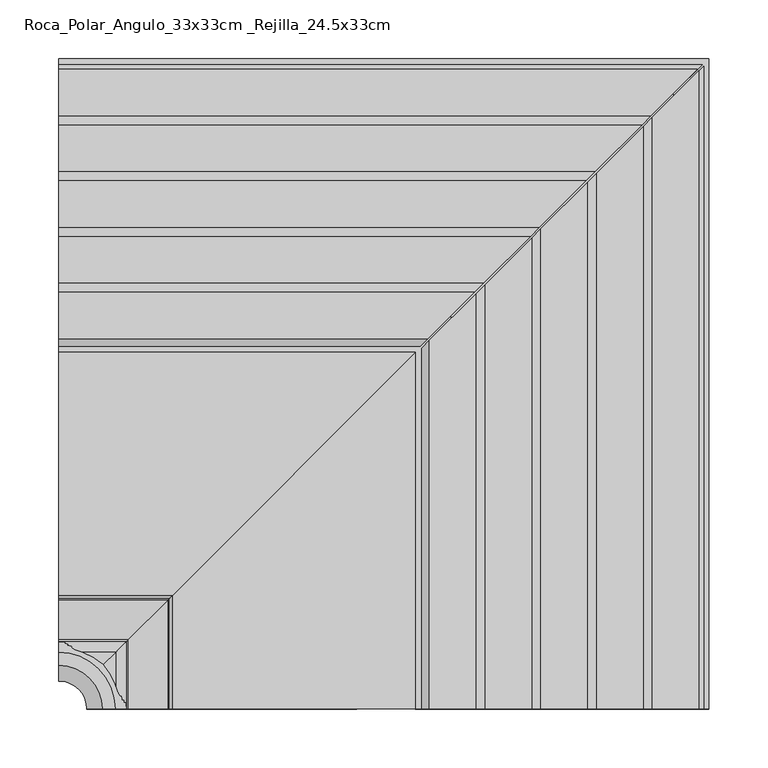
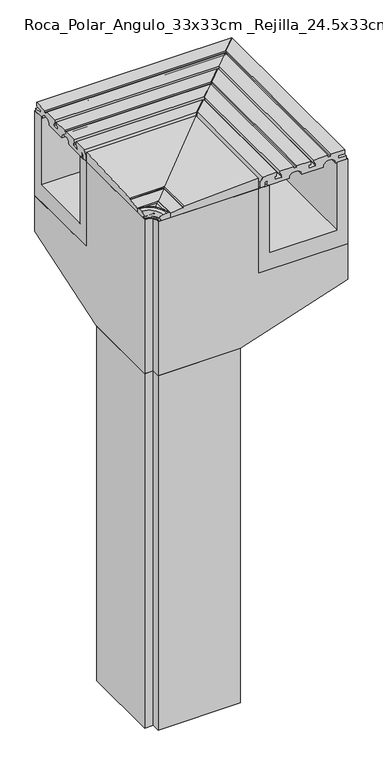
"""IFC4 building model written with IfcOpenShell, lengths in millimetres: proxy geometry, EXAGRES - Coronación Ángulo desbordante : Roca_Polar_Angulo_33x33cm _Rejilla_24.5x33cm."""

from ifc_helpers import new_model, si_unit, point, frame, origin, place, context, project, spatial, polyline, circle_curve, ellipse_curve, trimmed, outline, extrude, faceted_brep, source, transform, mapped, element, save
from ifc_brep_helpers import plane_surface, cylinder_surface, revolved_surface, advanced_brep


def roca_polar_angulo_33x33cm_rejilla_24_5x33cm_6b5bcf94(model_context):
    return source(origin(), model_context, "Body", "SolidModel", [
        faceted_brep([(-23.9, 280.0011128, 0.0), (-23.9, 280.0011128, -250.0), (-23.9, 530.0011128, -250.0), (-23.9, 530.0011128, -355.2891109), (-23.9, 230.0011128, -453.7407963), (-23.9, 0.0011128, -453.7407963), (-23.9, 0.0011128, 0.0), (230.0011128, -23.9, -453.7407963), (530.0011128, -23.9, -355.2891109), (530.0011128, -23.9, -250.0), (280.0011128, -23.9, -250.0), (280.0011128, -23.9, 0.0), (0.0, -23.9, 0.0), (0.0, -23.9, -453.7407963), (0.0, 0.0011128, 0.0), (280.0011128, 280.0011128, 0.0), (280.0011128, 280.0011128, -250.0), (530.0011128, 530.0011128, -250.0), (530.0011128, 530.0011128, -355.2891109), (230.0011128, 230.0011128, -453.7407963), (0.0, 0.0011128, -453.7407963)], [[[0, 1, 2, 3, 4, 5, 6]], [[7, 8, 9, 10, 11, 12, 13]], [[0, 6, 14, 12, 11, 15]], [[1, 0, 15, 16]], [[2, 1, 16, 10, 9, 17]], [[3, 2, 17, 18]], [[4, 3, 18, 19]], [[5, 4, 19, 7, 13, 20]], [[11, 10, 16, 15]], [[9, 8, 18, 17]], [[8, 7, 19, 18]], [[14, 6, 5, 20]], [[12, 14, 20, 13]]]),
        faceted_brep([(-23.9, 310.0, -200.0), (-23.9, 500.0, -200.0), (-23.9, 500.0, 0.0), (-23.9, 530.0, 0.0), (-23.9, 530.0, -250.0), (-23.9, 280.0, -250.0), (-23.9, 280.0, 0.0), (-23.9, 310.0, 0.0), (310.0011128, -23.9, -200.0), (310.0011128, -23.9, 0.0), (280.0011128, -23.9, 0.0), (280.0011128, -23.9, -250.0), (530.0011128, -23.9, -250.0), (530.0011128, -23.9, 0.0), (500.0011128, -23.9, 0.0), (500.0011128, -23.9, -200.0), (310.0011128, 310.0, -200.0), (500.0011128, 500.0, -200.0), (500.0011128, 500.0, 0.0), (530.0011128, 530.0, 0.0), (530.0011128, 530.0, -250.0), (280.0011128, 280.0, -250.0), (280.0011128, 280.0, 0.0), (310.0011128, 310.0, 0.0)], [[[0, 1, 2, 3, 4, 5, 6, 7]], [[8, 9, 10, 11, 12, 13, 14, 15]], [[1, 0, 16, 8, 15, 17]], [[2, 1, 17, 18]], [[3, 2, 18, 14, 13, 19]], [[4, 3, 19, 20]], [[5, 4, 20, 12, 11, 21]], [[6, 5, 21, 22]], [[7, 6, 22, 10, 9, 23]], [[0, 7, 23, 16]], [[18, 17, 15, 14]], [[20, 19, 13, 12]], [[22, 21, 11, 10]], [[16, 23, 9, 8]]]),
        advanced_brep(
        [(-23.9, 24.504847, 17.2273141), (-23.9, 33.5069131, 13.4447519), (-23.9, 33.5069131, 0.0), (-23.9, 10.1878853, 0.0), (-23.9, 9.2607023, 0.927183), (-23.9, 8.3335193, 1.854366), (-23.9, 1.3896617, 1.854366), (-23.9, 0.0, 3.300764), (-23.9, 13.1687422, 16.633214), (24.504847, -23.9, 17.2273141), (13.1687422, -23.9, 16.633214), (0.0, -23.9, 3.300764), (1.3896617, -23.9, 1.854366), (8.3335193, -23.9, 1.854366), (9.2607023, -23.9, 0.927183), (10.1878853, -23.9, 0.0), (33.5069131, -23.9, 0.0), (33.5069131, -23.9, 13.4447519)],
        [
            (0, 1, circle_curve(frame((-23.9, 25.0921082, 6.0217029), z_axis=(-1.0, 0.0, 0.0), x_axis=(0.0, -1.0, 0.0)), 11.2209892)),
            (1, 2),
            (2, 3),
            (3, 4, circle_curve(frame((-23.9, 10.1878853, 0.927183), z_axis=(-1.0, 0.0, 0.0), x_axis=(0.0, -1.0, 0.0)), 0.927183)),
            (4, 5, circle_curve(frame((-23.9, 8.3335193, 0.927183), z_axis=(1.0, 0.0, 0.0), x_axis=(0.0, 0.0, 1.0)), 0.927183)),
            (5, 6),
            (6, 7, circle_curve(frame((-23.9, 1.3896617, 3.2451405), z_axis=(-1.0000000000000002, 0.0, 0.0), x_axis=(0.0, -0.9991998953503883, 0.03999461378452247)), 1.3907745)),
            (7, 8, circle_curve(frame((-23.9, 13.8966173, 2.7445291), z_axis=(-1.0, 0.0, 0.0), x_axis=(0.0, -0.052335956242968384, 0.9986295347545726)), 13.907745)),
            (8, 0),
            (9, 10),
            (10, 11, circle_curve(frame((13.8966173, -23.9, 2.7445291), z_axis=(0.0, -1.0, 0.0), x_axis=(-0.052335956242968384, 0.0, 0.9986295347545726)), 13.907745)),
            (11, 12, circle_curve(frame((1.3896617, -23.9, 3.2451405), z_axis=(0.0, -1.0000000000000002, 0.0), x_axis=(-0.9991998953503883, 0.0, 0.03999461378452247)), 1.3907745)),
            (12, 13),
            (13, 14, circle_curve(frame((8.3335193, -23.9, 0.927183), z_axis=(0.0, 1.0, 0.0), x_axis=(0.0, 0.0, 1.0)), 0.927183)),
            (14, 15, circle_curve(frame((10.1878853, -23.9, 0.927183), z_axis=(0.0, -1.0, 0.0), x_axis=(-1.0, 0.0, 0.0)), 0.927183)),
            (15, 16),
            (16, 17),
            (17, 9, circle_curve(frame((25.0921082, -23.9, 6.0217029), z_axis=(0.0, -1.0, 0.0), x_axis=(-1.0, 0.0, 0.0)), 11.2209892)),
            (17, 1, circle_curve(frame((-23.9, -23.9, 13.4447519), z_axis=(0.0, 0.0, 1.0), x_axis=(0.0, 1.0, 0.0)), 57.4069131)),
            (0, 9, circle_curve(frame((-23.9, -23.9, 17.2273141), z_axis=(0.0, 0.0, -1.0), x_axis=(0.0, 1.0, 0.0)), 48.404847)),
            (16, 2, circle_curve(frame((-23.9, -23.9, 0.0), z_axis=(0.0, 0.0, 1.0), x_axis=(0.0, 1.0, 0.0)), 57.4069131)),
            (15, 3, circle_curve(frame((-23.9, -23.9, 0.0), z_axis=(0.0, 0.0, 1.0), x_axis=(0.0, 1.0, 0.0)), 34.0878853)),
            (14, 4, circle_curve(frame((-23.9, -23.9, 0.927183), z_axis=(0.0, 0.0, 1.0), x_axis=(0.0, 1.0, 0.0)), 33.1607023)),
            (13, 5, circle_curve(frame((-23.9, -23.9, 1.854366), z_axis=(0.0, 0.0, 1.0), x_axis=(0.0, 1.0, 0.0)), 32.2335193)),
            (12, 6, circle_curve(frame((-23.9, -23.9, 1.854366), z_axis=(0.0, 0.0, 1.0), x_axis=(0.0, 1.0, 0.0)), 25.2896617)),
            (11, 7, circle_curve(frame((-23.9, -23.9, 3.300764), z_axis=(0.0, 0.0, 1.0), x_axis=(0.0, 1.0, 0.0)), 23.9)),
            (10, 8, circle_curve(frame((-23.9, -23.9, 16.633214), z_axis=(0.0, 0.0, 1.0), x_axis=(0.0, 1.0, 0.0)), 37.0687422)),
        ],
        [
            plane_surface(frame((-23.9, 0.0, 0.0), z_axis=(-1.0, 0.0, 0.0), x_axis=(0.0, 0.0, 1.0))),
            plane_surface(frame((0.0, -23.9, 0.0), z_axis=(0.0, -1.0, 0.0), x_axis=(0.0, 0.0, 1.0))),
            revolved_surface(trimmed(ellipse_curve(frame((-23.9, 25.0921082, 6.0217029), z_axis=(-1.0, 0.0, 0.0), x_axis=(0.0, -1.0, 0.0)), 11.2209892, 11.2209892), [point((-23.9, 24.504847, 17.2273141))], [point((-23.9, 33.5069131, 13.4447519))], True, "CARTESIAN"), (-23.9, -23.9, 0.0), (0.0, 0.0, -1.0)),
            cylinder_surface(frame((-23.9, -23.9, 0.0), z_axis=(0.0, 0.0, -1.0), x_axis=(0.0, 1.0, 0.0)), 57.4069131),
            plane_surface(frame((-23.9, -23.9, 0.0), z_axis=(0.0, 0.0, -1.0), x_axis=(0.0, 1.0, 0.0))),
            revolved_surface(trimmed(ellipse_curve(frame((-23.9, 10.1878853, 0.927183), z_axis=(-1.0, 0.0, 0.0), x_axis=(0.0, -1.0, 0.0)), 0.927183, 0.927183), [point((-23.9, 10.1878853, 0.0))], [point((-23.9, 9.2607023, 0.927183))], True, "CARTESIAN"), (-23.9, -23.9, 0.0), (0.0, 0.0, -1.0)),
            revolved_surface(trimmed(ellipse_curve(frame((-23.9, 8.3335193, 0.927183), z_axis=(1.0, 0.0, 0.0), x_axis=(0.0, 0.0, 1.0)), 0.927183, 0.927183), [point((-23.9, 9.2607023, 0.927183))], [point((-23.9, 8.3335193, 1.854366))], True, "CARTESIAN"), (-23.9, -23.9, 0.0), (0.0, 0.0, -1.0)),
            plane_surface(frame((-23.9, -23.9, 1.854366), z_axis=(0.0, 0.0, -1.0), x_axis=(0.0, 1.0, 0.0))),
            revolved_surface(trimmed(ellipse_curve(frame((-23.9, 1.3896617, 3.2451405), z_axis=(-1.0000000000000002, 0.0, 0.0), x_axis=(0.0, -0.9991998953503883, 0.03999461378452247)), 1.3907745, 1.3907745), [point((-23.9, 1.3896617, 1.854366))], [point((-23.9, 0.0, 3.300764))], True, "CARTESIAN"), (-23.9, -23.9, 0.0), (0.0, 0.0, -1.0)),
            revolved_surface(trimmed(ellipse_curve(frame((-23.9, 13.8966173, 2.7445291), z_axis=(-1.0, 0.0, 0.0), x_axis=(0.0, -0.052335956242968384, 0.9986295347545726)), 13.907745, 13.907745), [point((-23.9, 0.0, 3.300764))], [point((-23.9, 13.1687422, 16.633214))], True, "CARTESIAN"), (-23.9, -23.9, 0.0), (0.0, 0.0, -1.0)),
            revolved_surface(polyline([(-23.9, 13.1687422, 16.633214), (-23.9, 24.504847, 17.2273141)]), (-23.9, -23.9, 0.0), (0.0, 0.0, -1.0)),
        ],
        [
            (0, [[1, 2, 3, 4, 5, 6, 7, 8, 9]]),
            (1, [[10, 11, 12, 13, 14, 15, 16, 17, 18]]),
            (2, [[19, -1, 20, -18]]),
            (3, [[21, -2, -19, -17]]),
            (4, [[22, -3, -21, -16]]),
            (5, [[23, -4, -22, -15]]),
            (6, [[24, -5, -23, -14]]),
            (7, [[25, -6, -24, -13]]),
            (8, [[26, -7, -25, -12]]),
            (9, [[27, -8, -26, -11]]),
            (10, [[-20, -9, -27, -10]]),
        ],
    ),
        extrude(outline(polyline([(230.0011128, 230.0011128), (230.0011128, -23.9), (0.0, -23.9), (0.0, 0.0011128), (-23.9, 0.0011128), (-23.9, 230.0011128), (230.0011128, 230.0011128)])), frame((0.0, 0.0, -1500.0), z_axis=(0.0, 0.0, 1.0), x_axis=(1.0, 0.0, 0.0)), (0.0, 0.0, 1.0), 1046.2592037),
        advanced_brep(
        [(-23.9, 70.2959881, 18.0752192), (-23.9, 72.7136292, 19.7537587), (-23.9, 279.9992511, 30.0), (-23.9, 279.9992511, 0.0), (-23.9, 10.1889981, 0.0), (-23.9, 9.2618151, 0.927183), (-23.9, 8.3346321, 1.854366), (-23.9, 1.3907745, 1.854366), (-23.9, 0.0011128, 3.300764), (-23.9, 13.169855, 16.633214), (-23.9, 24.5059597, 17.2273141), (-23.9, 33.5080259, 13.4447519), (-23.9, 35.1246359, 12.8309314), (-23.9, 68.8507546, 16.9719781), (70.2959881, -23.9, 18.0752192), (68.8507546, -23.9, 16.9719781), (35.1246359, -23.9, 12.8309314), (33.5080259, -23.9, 13.4447519), (24.5059597, -23.9, 17.2273141), (13.169855, -23.9, 16.633214), (0.0011128, -23.9, 3.300764), (1.3907745, -23.9, 1.854366), (8.3346321, -23.9, 1.854366), (9.2618151, -23.9, 0.927183), (10.1889981, -23.9, 0.0), (279.9992511, -23.9, 0.0), (279.9992511, -23.9, 30.0), (72.7136292, -23.9, 19.7537587), (70.2959881, 70.2959881, 18.0752192), (72.7136292, 72.7136292, 19.7537587), (279.9992511, 279.9992511, 30.0), (279.9992511, 279.9992511, 0.0), (10.1889981, 10.1889981, 0.0), (9.2618151, 9.2618151, 0.927183), (8.3346321, 8.3346321, 1.854366), (1.3907745, 1.3907745, 1.854366), (0.0011128, 0.0011128, 3.300764), (13.169855, 13.169855, 16.633214), (24.5059597, 24.5059597, 17.2273141), (33.5080259, 33.5080259, 13.4447519), (35.1246359, 35.1246359, 12.8309314), (68.8507546, 68.8507546, 16.9719781)],
        [
            (0, 1, circle_curve(frame((-23.9, 72.850955, 16.9756017), z_axis=(-1.0, 0.0, 0.0), x_axis=(0.0, -0.052335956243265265, 0.9986295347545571)), 2.781549)),
            (1, 2),
            (2, 3),
            (3, 4),
            (4, 5, circle_curve(frame((-23.9, 10.1889981, 0.927183), z_axis=(-1.0, 0.0, 0.0), x_axis=(0.0, -1.0, 0.0)), 0.927183)),
            (5, 6, circle_curve(frame((-23.9, 8.3346321, 0.927183), z_axis=(1.0, 0.0, 0.0), x_axis=(0.0, 0.0, 1.0)), 0.927183)),
            (6, 7),
            (7, 8, circle_curve(frame((-23.9, 1.3907745, 3.2451405), z_axis=(-1.0, 0.0, 0.0), x_axis=(0.0, -0.9991998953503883, 0.039994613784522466)), 1.3907745)),
            (8, 9, circle_curve(frame((-23.9, 13.8977301, 2.7445291), z_axis=(-1.0, 0.0, 0.0), x_axis=(0.0, -0.052335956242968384, 0.9986295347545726)), 13.907745)),
            (9, 10),
            (10, 11, circle_curve(frame((-23.9, 25.0932209, 6.0217029), z_axis=(-1.0, 0.0, 0.0), x_axis=(0.0, -1.0, 0.0)), 11.2209892)),
            (11, 12, circle_curve(frame((-23.9, 34.8986455, 14.6714753), z_axis=(1.0, 0.0, 0.0), x_axis=(0.0, 0.12186934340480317, -0.9925461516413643)), 1.854366)),
            (12, 13),
            (13, 0, circle_curve(frame((-23.9, 68.5926768, 18.8082976), z_axis=(1.0, 0.0, 0.0), x_axis=(0.0, 0.9185410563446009, -0.39532559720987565)), 1.854366)),
            (14, 15, circle_curve(frame((68.5926768, -23.9, 18.8082976), z_axis=(0.0, 1.0, 0.0), x_axis=(0.9185410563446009, 0.0, -0.3953255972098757)), 1.854366)),
            (15, 16),
            (16, 17, circle_curve(frame((34.8986455, -23.9, 14.6714753), z_axis=(0.0, 1.0, 0.0), x_axis=(0.12186934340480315, 0.0, -0.9925461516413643)), 1.854366)),
            (17, 18, circle_curve(frame((25.0932209, -23.9, 6.0217029), z_axis=(0.0, -1.0, 0.0), x_axis=(-1.0, 0.0, 0.0)), 11.2209892)),
            (18, 19),
            (19, 20, circle_curve(frame((13.8977301, -23.9, 2.7445291), z_axis=(0.0, -1.0, 0.0), x_axis=(-0.05233595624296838, 0.0, 0.9986295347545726)), 13.907745)),
            (20, 21, circle_curve(frame((1.3907745, -23.9, 3.2451405), z_axis=(0.0, -1.0, 0.0), x_axis=(-0.9991998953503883, 0.0, 0.03999461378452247)), 1.3907745)),
            (21, 22),
            (22, 23, circle_curve(frame((8.3346321, -23.9, 0.927183), z_axis=(0.0, 1.0, 0.0), x_axis=(0.0, 0.0, 1.0)), 0.927183)),
            (23, 24, circle_curve(frame((10.1889981, -23.9, 0.927183), z_axis=(0.0, -1.0, 0.0), x_axis=(-1.0, 0.0, 0.0)), 0.927183)),
            (24, 25),
            (25, 26),
            (26, 27),
            (27, 14, circle_curve(frame((72.850955, -23.9, 16.9756017), z_axis=(0.0, -1.0, 0.0), x_axis=(-0.05233595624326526, 0.0, 0.9986295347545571)), 2.781549)),
            (0, 28),
            (28, 29, ellipse_curve(frame((72.850955, 72.850955, 16.9756017), z_axis=(-0.707106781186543, 0.707106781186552, 0.0), x_axis=(-0.707106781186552, -0.7071067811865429, 0.0)), 3.9337043, 2.781549)),
            (29, 1),
            (29, 30),
            (30, 2),
            (30, 31),
            (31, 3),
            (31, 25),
            (24, 32),
            (32, 4),
            (32, 33, ellipse_curve(frame((10.1889981, 10.1889981, 0.927183), z_axis=(-0.707106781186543, 0.707106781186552, 0.0), x_axis=(-0.707106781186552, -0.7071067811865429, 0.0)), 1.3112348, 0.927183)),
            (33, 5),
            (33, 34, ellipse_curve(frame((8.3346321, 8.3346321, 0.927183), z_axis=(0.707106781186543, -0.707106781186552, 0.0), x_axis=(0.707106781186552, 0.7071067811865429, 0.0)), 1.3112348, 0.927183)),
            (34, 6),
            (34, 22),
            (21, 35),
            (35, 7),
            (35, 36, ellipse_curve(frame((1.3907745, 1.3907745, 3.2451405), z_axis=(-0.707106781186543, 0.707106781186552, 0.0), x_axis=(-0.707106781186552, -0.7071067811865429, 0.0)), 1.9668522, 1.3907745)),
            (36, 8),
            (36, 37, ellipse_curve(frame((13.8977301, 13.8977301, 2.7445291), z_axis=(-0.707106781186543, 0.707106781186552, 0.0), x_axis=(-0.707106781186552, -0.7071067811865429, 0.0)), 19.6685216, 13.907745)),
            (37, 9),
            (37, 38),
            (38, 10),
            (38, 39, ellipse_curve(frame((25.0932209, 25.0932209, 6.0217029), z_axis=(-0.707106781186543, 0.707106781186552, 0.0), x_axis=(-0.707106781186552, -0.7071067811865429, 0.0)), 15.8688751, 11.2209892)),
            (39, 11),
            (39, 40, ellipse_curve(frame((34.8986455, 34.8986455, 14.6714753), z_axis=(0.707106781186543, -0.707106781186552, 0.0), x_axis=(0.707106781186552, 0.7071067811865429, 0.0)), 2.6224695, 1.854366)),
            (40, 12),
            (40, 41),
            (41, 13),
            (41, 28, ellipse_curve(frame((68.5926768, 68.5926768, 18.8082976), z_axis=(0.707106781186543, -0.707106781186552, 0.0), x_axis=(0.707106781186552, 0.7071067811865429, 0.0)), 2.6224695, 1.854366)),
            (28, 14),
            (27, 29),
            (26, 30),
            (23, 33),
            (20, 36),
            (19, 37),
            (18, 38),
            (17, 39),
            (16, 40),
            (15, 41),
        ],
        [
            plane_surface(frame((-23.9, 0.0011128, 0.0), z_axis=(-1.0, 0.0, 0.0), x_axis=(0.0, 0.0, 1.0))),
            plane_surface(frame((0.0011128, -23.9, 0.0), z_axis=(0.0, -1.0, 0.0), x_axis=(0.0, 0.0, 1.0))),
            cylinder_surface(frame((-23.9, 72.850955, 16.9756017), z_axis=(-1.0, 0.0, 0.0), x_axis=(0.0, -0.052335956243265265, 0.9986295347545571)), 2.781549),
            plane_surface(frame((-23.9, 72.7136292, 19.7537587), z_axis=(0.0, -0.04937026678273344, 0.9987805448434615), x_axis=(1.0, 0.0, 0.0))),
            plane_surface(frame((-23.9, 279.9992511, 30.0), z_axis=(0.0, 1.0, 0.0), x_axis=(1.0, 0.0, 0.0))),
            plane_surface(frame((-23.9, 279.9992511, 0.0), z_axis=(0.0, 0.0, -1.0), x_axis=(1.0, 0.0, 0.0))),
            cylinder_surface(frame((-23.9, 10.1889981, 0.927183), z_axis=(-1.0, 0.0, 0.0), x_axis=(0.0, -1.0, 0.0)), 0.927183),
            revolved_surface(polyline([(9.261815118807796, 8.3346321, 1.854366), (-23.9, 8.3346321, 1.854366)]), (-23.9, 8.3346321, 0.927183), (1.0, 0.0, 0.0)),
            plane_surface(frame((-23.9, 8.3346321, 1.854366), z_axis=(0.0, 0.0, -1.0), x_axis=(1.0, 0.0, 0.0))),
            cylinder_surface(frame((-23.9, 1.3907745, 3.2451405), z_axis=(-1.0000000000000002, 0.0, 0.0), x_axis=(0.0, -0.9991998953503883, 0.039994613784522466)), 1.3907745),
            cylinder_surface(frame((-23.9, 13.8977301, 2.7445291), z_axis=(-1.0, 0.0, 0.0), x_axis=(0.0, -0.052335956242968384, 0.9986295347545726)), 13.907745),
            plane_surface(frame((-23.9, 13.169855, 16.633214), z_axis=(0.0, -0.052335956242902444, 0.998629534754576), x_axis=(1.0, 0.0, 0.0))),
            cylinder_surface(frame((-23.9, 25.0932209, 6.0217029), z_axis=(-1.0, 0.0, 0.0), x_axis=(0.0, -1.0, 0.0)), 11.2209892),
            revolved_surface(polyline([(36.75301146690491, 35.124635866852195, 12.830931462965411), (-23.9, 35.124635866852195, 12.830931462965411)]), (-23.9, 34.8986455, 14.6714753), (1.0, 0.0, 0.0)),
            plane_surface(frame((-23.9, 35.1246359, 12.8309314), z_axis=(0.0, -0.12186934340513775, 0.9925461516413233), x_axis=(1.0, 0.0, 0.0))),
            revolved_surface(polyline([(70.44704276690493, 70.29598810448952, 18.07521925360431), (-23.9, 70.29598810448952, 18.07521925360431)]), (-23.9, 68.5926768, 18.8082976), (1.0000000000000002, 0.0, 0.0)),
            cylinder_surface(frame((72.850955, 0.0011128, 16.9756017), z_axis=(0.0, 1.0, 0.0), x_axis=(-0.05233595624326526, 0.0, 0.9986295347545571)), 2.781549),
            plane_surface(frame((72.7136292, 72.7136292, 19.7537587), z_axis=(-0.049370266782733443, 0.0, 0.9987805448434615), x_axis=(0.0, -1.0, 0.0))),
            plane_surface(frame((279.9992511, 279.9992511, 30.0), z_axis=(1.0, 0.0, 0.0), x_axis=(0.0, -1.0, 0.0))),
            cylinder_surface(frame((10.1889981, 0.0011128, 0.927183), z_axis=(0.0, 1.0, 0.0), x_axis=(-1.0, 0.0, 0.0)), 0.927183),
            revolved_surface(polyline([(8.3346321, -23.9, 1.854366), (8.3346321, 9.26181511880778, 1.854366)]), (8.3346321, 0.0011128, 0.927183), (0.0, -1.0, 0.0)),
            cylinder_surface(frame((1.3907745, 0.0011128, 3.2451405), z_axis=(0.0, 1.0000000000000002, 0.0), x_axis=(-0.9991998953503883, 0.0, 0.03999461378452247)), 1.3907745),
            cylinder_surface(frame((13.8977301, 0.0011128, 2.7445291), z_axis=(0.0, 1.0, 0.0), x_axis=(-0.05233595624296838, 0.0, 0.9986295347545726)), 13.907745),
            plane_surface(frame((13.169855, 13.169855, 16.633214), z_axis=(-0.05233595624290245, 0.0, 0.998629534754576), x_axis=(0.0, -1.0, 0.0))),
            cylinder_surface(frame((25.0932209, 0.0011128, 6.0217029), z_axis=(0.0, 1.0, 0.0), x_axis=(-1.0, 0.0, 0.0)), 11.2209892),
            revolved_surface(polyline([(35.124635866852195, -23.9, 12.830931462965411), (35.124635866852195, 36.75301146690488, 12.830931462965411)]), (34.8986455, 0.0011128, 14.6714753), (0.0, -1.0, 0.0)),
            plane_surface(frame((35.1246359, 35.1246359, 12.8309314), z_axis=(-0.12186934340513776, 0.0, 0.9925461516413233), x_axis=(0.0, -1.0, 0.0))),
            revolved_surface(polyline([(70.29598810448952, -23.900000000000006, 18.07521925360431), (70.29598810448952, 70.44704276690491, 18.07521925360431)]), (68.5926768, 0.0011128, 18.8082976), (0.0, -1.0000000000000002, 0.0)),
        ],
        [
            (0, [[1, 2, 3, 4, 5, 6, 7, 8, 9, 10, 11, 12, 13, 14]]),
            (1, [[15, 16, 17, 18, 19, 20, 21, 22, 23, 24, 25, 26, 27, 28]]),
            (2, [[-1, 29, 30, 31]]),
            (3, [[-2, -31, 32, 33]]),
            (4, [[-3, -33, 34, 35]]),
            (5, [[-4, -35, 36, -25, 37, 38]]),
            (6, [[-5, -38, 39, 40]]),
            (7, [[-6, -40, 41, 42]]),
            (8, [[-7, -42, 43, -22, 44, 45]]),
            (9, [[-8, -45, 46, 47]]),
            (10, [[-9, -47, 48, 49]]),
            (11, [[-10, -49, 50, 51]]),
            (12, [[-11, -51, 52, 53]]),
            (13, [[-12, -53, 54, 55]]),
            (14, [[-13, -55, 56, 57]]),
            (15, [[-14, -57, 58, -29]]),
            (16, [[-30, 59, -28, 60]]),
            (17, [[-32, -60, -27, 61]]),
            (18, [[-34, -61, -26, -36]]),
            (19, [[-39, -37, -24, 62]]),
            (20, [[-41, -62, -23, -43]]),
            (21, [[-46, -44, -21, 63]]),
            (22, [[-48, -63, -20, 64]]),
            (23, [[-50, -64, -19, 65]]),
            (24, [[-52, -65, -18, 66]]),
            (25, [[-54, -66, -17, 67]]),
            (26, [[-56, -67, -16, 68]]),
            (27, [[-58, -68, -15, -59]]),
        ],
    ),
        advanced_brep(
        [(-23.9, 284.9992511, 15.0), (-23.9, 291.4992511, 30.0), (-23.9, 330.9992511, 30.0), (-23.9, 329.9992511, 19.0), (-23.9, 324.9992511, 19.0), (-23.9, 324.9992511, 11.0), (-23.9, 344.9992511, 11.0), (-23.9, 344.9992511, 19.0), (-23.9, 339.9992511, 19.0), (-23.9, 338.9992511, 30.0), (-23.9, 378.4992511, 30.0), (-23.9, 378.4992511, 25.0), (-23.9, 386.4992511, 25.0), (-23.9, 386.4992511, 30.0), (-23.9, 425.9992511, 30.0), (-23.9, 424.9992511, 19.0), (-23.9, 419.9992511, 19.0), (-23.9, 419.9992511, 11.0), (-23.9, 439.9992511, 11.0), (-23.9, 439.9992511, 19.0), (-23.9, 434.9992511, 19.0), (-23.9, 433.9992511, 30.0), (-23.9, 473.4992511, 30.0), (-23.9, 473.4992511, 25.0), (-23.9, 481.4992511, 25.0), (-23.9, 481.4992511, 30.0), (-23.9, 520.9992511, 30.0), (-23.9, 520.9992511, 19.0), (-23.9, 502.4992511, 19.0), (-23.9, 502.4992511, 11.0), (-23.9, 524.9992511, 11.0), (-23.9, 524.9992511, 0.0), (-23.9, 494.9992511, 0.0), (-23.9, 479.9992511, 15.0), (-23.9, 474.9992511, 15.0), (-23.9, 459.9992511, 0.0), (-23.9, 399.9992511, 0.0), (-23.9, 384.9992511, 15.0), (-23.9, 379.9992511, 15.0), (-23.9, 364.9992511, 0.0), (-23.9, 304.4992511, 0.0), (-23.9, 304.4992511, 11.0), (-23.9, 296.9992511, 11.0), (-23.9, 296.9992511, 0.0), (-23.9, 284.9992511, 0.0), (284.0980202, 284.9992511, 0.0), (284.0980202, 284.9992511, 15.0), (296.0980202, 296.9992511, 0.0), (296.0980202, 296.9992511, 11.0), (303.5980202, 304.4992511, 11.0), (303.5980202, 304.4992511, 0.0), (364.0980202, 364.9992511, 0.0), (379.0980202, 379.9992511, 15.0), (384.0980202, 384.9992511, 15.0), (399.0980202, 399.9992511, 0.0), (459.0980202, 459.9992511, 0.0), (474.0980202, 474.9992511, 15.0), (479.0980202, 479.9992511, 15.0), (494.0980202, 494.9992511, 0.0), (524.0980202, 524.9992511, 0.0), (524.0980202, 524.9992511, 11.0), (501.5980202, 502.4992511, 11.0), (501.5980202, 502.4992511, 19.0), (520.0980202, 520.9992511, 19.0), (520.0980202, 520.9992511, 30.0), (480.5980202, 481.4992511, 30.0), (480.5980202, 481.4992511, 25.0), (472.5980202, 473.4992511, 25.0), (472.5980202, 473.4992511, 30.0), (433.0980202, 433.9992511, 30.0), (434.0980202, 434.9992511, 19.0), (439.0980202, 439.9992511, 19.0), (439.0980202, 439.9992511, 11.0), (419.0980202, 419.9992511, 11.0), (419.0980202, 419.9992511, 19.0), (424.0980202, 424.9992511, 19.0), (425.0980202, 425.9992511, 30.0), (385.5980202, 386.4992511, 30.0), (385.5980202, 386.4992511, 25.0), (377.5980202, 378.4992511, 25.0), (377.5980202, 378.4992511, 30.0), (338.0980202, 338.9992511, 30.0), (339.0980202, 339.9992511, 19.0), (344.0980202, 344.9992511, 19.0), (344.0980202, 344.9992511, 11.0), (324.0980202, 324.9992511, 11.0), (324.0980202, 324.9992511, 19.0), (329.0980202, 329.9992511, 19.0), (330.0980202, 330.9992511, 30.0), (290.5980202, 291.4992511, 30.0)],
        [
            (0, 1),
            (1, 2),
            (2, 3),
            (3, 4),
            (4, 5),
            (5, 6),
            (6, 7),
            (7, 8),
            (8, 9),
            (9, 10),
            (10, 11),
            (11, 12),
            (12, 13),
            (13, 14),
            (14, 15),
            (15, 16),
            (16, 17),
            (17, 18),
            (18, 19),
            (19, 20),
            (20, 21),
            (21, 22),
            (22, 23),
            (23, 24),
            (24, 25),
            (25, 26),
            (26, 27),
            (27, 28),
            (28, 29),
            (29, 30),
            (30, 31),
            (31, 32),
            (32, 33, circle_curve(frame((-23.9, 479.9992511, 0.0), z_axis=(1.0, 0.0, 0.0), x_axis=(0.0, 1.0, 0.0)), 15.0)),
            (33, 34),
            (34, 35, circle_curve(frame((-23.9, 474.9992511, 0.0), z_axis=(1.0, 0.0, 0.0), x_axis=(0.0, 1.0, 0.0)), 15.0)),
            (35, 36),
            (36, 37, circle_curve(frame((-23.9, 384.9992511, 0.0), z_axis=(1.0, 0.0, 0.0), x_axis=(0.0, 1.0, 0.0)), 15.0)),
            (37, 38),
            (38, 39, circle_curve(frame((-23.9, 379.9992511, 0.0), z_axis=(1.0, 0.0, 0.0), x_axis=(0.0, 1.0, 0.0)), 15.0)),
            (39, 40),
            (40, 41),
            (41, 42, circle_curve(frame((-23.9, 300.7492511, 11.0), z_axis=(1.0, 0.0, 0.0), x_axis=(0.0, 1.0, 0.0)), 3.75)),
            (42, 43),
            (43, 44),
            (44, 0),
            (44, 45),
            (45, 46),
            (46, 0),
            (43, 47),
            (47, 45),
            (42, 48),
            (48, 47),
            (41, 49),
            (49, 48, ellipse_curve(frame((299.8480202, 300.7492511, 11.0), z_axis=(0.7071067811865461, -0.707106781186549, 0.0), x_axis=(0.7071067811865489, 0.7071067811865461, 0.0)), 5.3033009, 3.75)),
            (40, 50),
            (50, 49),
            (39, 51),
            (51, 50),
            (38, 52),
            (52, 51, ellipse_curve(frame((379.0980202, 379.9992511, 0.0), z_axis=(0.7071067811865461, -0.707106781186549, 0.0), x_axis=(0.7071067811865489, 0.7071067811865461, 0.0)), 21.2132034, 15.0)),
            (37, 53),
            (53, 52),
            (36, 54),
            (54, 53, ellipse_curve(frame((384.0980202, 384.9992511, 0.0), z_axis=(0.7071067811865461, -0.707106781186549, 0.0), x_axis=(0.7071067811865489, 0.7071067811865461, 0.0)), 21.2132034, 15.0)),
            (35, 55),
            (55, 54),
            (34, 56),
            (56, 55, ellipse_curve(frame((474.0980202, 474.9992511, 0.0), z_axis=(0.7071067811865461, -0.707106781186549, 0.0), x_axis=(0.7071067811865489, 0.7071067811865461, 0.0)), 21.2132034, 15.0)),
            (33, 57),
            (57, 56),
            (32, 58),
            (58, 57, ellipse_curve(frame((479.0980202, 479.9992511, 0.0), z_axis=(0.7071067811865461, -0.707106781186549, 0.0), x_axis=(0.7071067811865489, 0.7071067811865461, 0.0)), 21.2132034, 15.0)),
            (31, 59),
            (59, 58),
            (30, 60),
            (60, 59),
            (29, 61),
            (61, 60),
            (28, 62),
            (62, 61),
            (27, 63),
            (63, 62),
            (26, 64),
            (64, 63),
            (25, 65),
            (65, 64),
            (24, 66),
            (66, 65),
            (23, 67),
            (67, 66),
            (22, 68),
            (68, 67),
            (21, 69),
            (69, 68),
            (20, 70),
            (70, 69),
            (19, 71),
            (71, 70),
            (18, 72),
            (72, 71),
            (17, 73),
            (73, 72),
            (16, 74),
            (74, 73),
            (15, 75),
            (75, 74),
            (14, 76),
            (76, 75),
            (13, 77),
            (77, 76),
            (12, 78),
            (78, 77),
            (11, 79),
            (79, 78),
            (10, 80),
            (80, 79),
            (9, 81),
            (81, 80),
            (8, 82),
            (82, 81),
            (7, 83),
            (83, 82),
            (6, 84),
            (84, 83),
            (5, 85),
            (85, 84),
            (4, 86),
            (86, 85),
            (3, 87),
            (87, 86),
            (2, 88),
            (88, 87),
            (1, 89),
            (89, 88),
            (46, 89),
        ],
        [
            plane_surface(frame((-23.9, 291.4992511, 30.0), z_axis=(-1.0, 0.0, 0.0), x_axis=(0.0, 0.39760743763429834, 0.9175556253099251))),
            plane_surface(frame((-23.9, 284.9992511, 0.0), z_axis=(0.0, -1.0, 0.0), x_axis=(1.0, 0.0, 0.0))),
            plane_surface(frame((-23.9, 296.9992511, 0.0), z_axis=(0.0, 0.0, -1.0), x_axis=(1.0, 0.0, 0.0))),
            plane_surface(frame((-23.9, 296.9992511, 11.0), z_axis=(0.0, 1.0, 0.0), x_axis=(1.0, 0.0, 0.0))),
            revolved_surface(polyline([(303.59802022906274, 304.4992511, 11.0), (-23.899999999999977, 304.4992511, 11.0)]), (530.0011128, 300.7492511, 11.0), (1.0, 0.0, 0.0)),
            plane_surface(frame((-23.9, 304.4992511, 0.0), z_axis=(0.0, -1.0, 0.0), x_axis=(1.0, 0.0, 0.0))),
            plane_surface(frame((-23.9, 364.9992511, 0.0), z_axis=(0.0, 0.0, -1.0), x_axis=(1.0, 0.0, 0.0))),
            revolved_surface(polyline([(394.09802017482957, 394.9992511, 0.0), (-23.899999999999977, 394.9992511, 0.0)]), (530.0011128, 379.9992511, 0.0), (1.0, 0.0, 0.0)),
            plane_surface(frame((-23.9, 384.9992511, 15.0), z_axis=(0.0, 2.7549662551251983e-12, -1.0), x_axis=(1.0, 0.0, 0.0))),
            revolved_surface(polyline([(399.0980202, 399.9992511, 0.0), (-23.899999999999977, 399.9992511, 0.0)]), (530.0011128, 384.9992511, 0.0), (1.0, 0.0, 0.0)),
            plane_surface(frame((-23.9, 459.9992511, 0.0), z_axis=(0.0, 0.0, -1.0), x_axis=(1.0, 0.0, 0.0))),
            revolved_surface(polyline([(489.09802017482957, 489.9992511, 0.0), (-23.899999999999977, 489.9992511, 0.0)]), (530.0011128, 474.9992511, 0.0), (1.0, 0.0, 0.0)),
            plane_surface(frame((-23.9, 479.9992511, 15.0), z_axis=(0.0, 2.7549662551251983e-12, -1.0), x_axis=(1.0, 0.0, 0.0))),
            revolved_surface(polyline([(494.0980202, 494.9992511, 0.0), (-23.899999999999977, 494.9992511, 0.0)]), (530.0011128, 479.9992511, 0.0), (1.0, 0.0, 0.0)),
            plane_surface(frame((-23.9, 524.9992511, 0.0), z_axis=(0.0, 0.0, -1.0), x_axis=(1.0, 0.0, 0.0))),
            plane_surface(frame((-23.9, 524.9992511, 11.0), z_axis=(0.0, 1.0, 0.0), x_axis=(1.0, 0.0, 0.0))),
            plane_surface(frame((-23.9, 502.4992511, 11.0), z_axis=(0.0, 0.0, 1.0), x_axis=(1.0, 0.0, 0.0))),
            plane_surface(frame((-23.9, 502.4992511, 19.0), z_axis=(0.0, 1.0, 0.0), x_axis=(1.0, 0.0, 0.0))),
            plane_surface(frame((-23.9, 520.9992511, 19.0), z_axis=(0.0, 0.0, -1.0), x_axis=(1.0, 0.0, 0.0))),
            plane_surface(frame((-23.9, 520.9992511, 30.0), z_axis=(0.0, 1.0, 0.0), x_axis=(1.0, 0.0, 0.0))),
            plane_surface(frame((-23.9, 481.4992511, 30.0), z_axis=(0.0, 0.0, 1.0), x_axis=(1.0, 0.0, 0.0))),
            plane_surface(frame((-23.9, 481.4992511, 25.0), z_axis=(0.0, -1.0, 0.0), x_axis=(1.0, 0.0, 0.0))),
            plane_surface(frame((-23.9, 473.4992511, 25.0), z_axis=(0.0, 0.0, 1.0), x_axis=(1.0, 0.0, 0.0))),
            plane_surface(frame((-23.9, 473.4992511, 30.0), z_axis=(0.0, 1.0, 0.0), x_axis=(1.0, 0.0, 0.0))),
            plane_surface(frame((-23.9, 433.9992511, 30.0), z_axis=(0.0, 0.0, 1.0), x_axis=(1.0, 0.0, 0.0))),
            plane_surface(frame((-23.9, 434.9992511, 19.0), z_axis=(0.0, -0.9958932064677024, -0.09053574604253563), x_axis=(1.0, 0.0, 0.0))),
            plane_surface(frame((-23.9, 439.9992511, 19.0), z_axis=(0.0, 0.0, -1.0), x_axis=(1.0, 0.0, 0.0))),
            plane_surface(frame((-23.9, 439.9992511, 11.0), z_axis=(0.0, -1.0, 0.0), x_axis=(1.0, 0.0, 0.0))),
            plane_surface(frame((-23.9, 419.9992511, 11.0), z_axis=(0.0, 0.0, 1.0), x_axis=(1.0, 0.0, 0.0))),
            plane_surface(frame((-23.9, 419.9992511, 19.0), z_axis=(0.0, 1.0, 0.0), x_axis=(1.0, 0.0, 0.0))),
            plane_surface(frame((-23.9, 424.9992511, 19.0), z_axis=(0.0, 0.0, -1.0), x_axis=(1.0, 0.0, 0.0))),
            plane_surface(frame((-23.9, 425.9992511, 30.0), z_axis=(0.0, 0.9958932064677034, -0.09053574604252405), x_axis=(1.0, 0.0, 0.0))),
            plane_surface(frame((-23.9, 386.4992511, 30.0), z_axis=(0.0, 0.0, 1.0), x_axis=(1.0, 0.0, 0.0))),
            plane_surface(frame((-23.9, 386.4992511, 25.0), z_axis=(0.0, -1.0, 0.0), x_axis=(1.0, 0.0, 0.0))),
            plane_surface(frame((-23.9, 378.4992511, 25.0), z_axis=(0.0, 0.0, 1.0), x_axis=(1.0, 0.0, 0.0))),
            plane_surface(frame((-23.9, 378.4992511, 30.0), z_axis=(0.0, 1.0, 0.0), x_axis=(1.0, 0.0, 0.0))),
            plane_surface(frame((-23.9, 338.9992511, 30.0), z_axis=(0.0, 0.0, 1.0), x_axis=(1.0, 0.0, 0.0))),
            plane_surface(frame((-23.9, 339.9992511, 19.0), z_axis=(0.0, -0.9958932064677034, -0.0905357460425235), x_axis=(1.0, 0.0, 0.0))),
            plane_surface(frame((-23.9, 344.9992511, 19.0), z_axis=(0.0, 0.0, -1.0), x_axis=(1.0, 0.0, 0.0))),
            plane_surface(frame((-23.9, 344.9992511, 11.0), z_axis=(0.0, -1.0, 0.0), x_axis=(1.0, 0.0, 0.0))),
            plane_surface(frame((-23.9, 324.9992511, 11.0), z_axis=(0.0, 0.0, 1.0), x_axis=(1.0, 0.0, 0.0))),
            plane_surface(frame((-23.9, 324.9992511, 19.0), z_axis=(0.0, 1.0, 0.0), x_axis=(1.0, 0.0, 0.0))),
            plane_surface(frame((-23.9, 329.9992511, 19.0), z_axis=(0.0, 0.0, -1.0), x_axis=(1.0, 0.0, 0.0))),
            plane_surface(frame((-23.9, 330.9992511, 30.0), z_axis=(0.0, 0.9958932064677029, -0.09053574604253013), x_axis=(1.0, 0.0, 0.0))),
            plane_surface(frame((-23.9, 291.4992511, 30.0), z_axis=(0.0, 0.0, 1.0), x_axis=(1.0, 0.0, 0.0))),
            plane_surface(frame((-23.9, 284.9992511, 15.0), z_axis=(0.0, -0.9175556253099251, 0.39760743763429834), x_axis=(1.0, 0.0, 0.0))),
            plane_surface(frame((530.0011128, 530.9023437, 30.0), z_axis=(0.7071067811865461, -0.707106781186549, 0.0), x_axis=(0.0, 0.0, -1.0))),
        ],
        [
            (0, [[1, 2, 3, 4, 5, 6, 7, 8, 9, 10, 11, 12, 13, 14, 15, 16, 17, 18, 19, 20, 21, 22, 23, 24, 25, 26, 27, 28, 29, 30, 31, 32, 33, 34, 35, 36, 37, 38, 39, 40, 41, 42, 43, 44, 45]]),
            (1, [[-45, 46, 47, 48]]),
            (2, [[-44, 49, 50, -46]]),
            (3, [[-43, 51, 52, -49]]),
            (4, [[-42, 53, 54, -51]]),
            (5, [[-41, 55, 56, -53]]),
            (6, [[-40, 57, 58, -55]]),
            (7, [[-39, 59, 60, -57]]),
            (8, [[-38, 61, 62, -59]]),
            (9, [[-37, 63, 64, -61]]),
            (10, [[-36, 65, 66, -63]]),
            (11, [[-35, 67, 68, -65]]),
            (12, [[-34, 69, 70, -67]]),
            (13, [[-33, 71, 72, -69]]),
            (14, [[-32, 73, 74, -71]]),
            (15, [[-31, 75, 76, -73]]),
            (16, [[-30, 77, 78, -75]]),
            (17, [[-29, 79, 80, -77]]),
            (18, [[-28, 81, 82, -79]]),
            (19, [[-27, 83, 84, -81]]),
            (20, [[-26, 85, 86, -83]]),
            (21, [[-25, 87, 88, -85]]),
            (22, [[-24, 89, 90, -87]]),
            (23, [[-23, 91, 92, -89]]),
            (24, [[-22, 93, 94, -91]]),
            (25, [[-21, 95, 96, -93]]),
            (26, [[-20, 97, 98, -95]]),
            (27, [[-19, 99, 100, -97]]),
            (28, [[-18, 101, 102, -99]]),
            (29, [[-17, 103, 104, -101]]),
            (30, [[-16, 105, 106, -103]]),
            (31, [[-15, 107, 108, -105]]),
            (32, [[-14, 109, 110, -107]]),
            (33, [[-13, 111, 112, -109]]),
            (34, [[-12, 113, 114, -111]]),
            (35, [[-11, 115, 116, -113]]),
            (36, [[-10, 117, 118, -115]]),
            (37, [[-9, 119, 120, -117]]),
            (38, [[-8, 121, 122, -119]]),
            (39, [[-7, 123, 124, -121]]),
            (40, [[-6, 125, 126, -123]]),
            (41, [[-5, 127, 128, -125]]),
            (42, [[-4, 129, 130, -127]]),
            (43, [[-3, 131, 132, -129]]),
            (44, [[-2, 133, 134, -131]]),
            (45, [[-1, -48, 135, -133]]),
            (46, [[-47, -50, -52, -54, -56, -58, -60, -62, -64, -66, -68, -70, -72, -74, -76, -78, -80, -82, -84, -86, -88, -90, -92, -94, -96, -98, -100, -102, -104, -106, -108, -110, -112, -114, -116, -118, -120, -122, -124, -126, -128, -130, -132, -134, -135]]),
        ],
    ),
        advanced_brep(
        [(285.3825589, -23.9, 15.0), (285.3825589, -23.9, 0.0), (297.3825589, -23.9, 0.0), (297.3825589, -23.9, 11.0), (304.8825589, -23.9, 11.0), (304.8825589, -23.9, 0.0), (365.3825589, -23.9, 0.0), (380.3825589, -23.9, 15.0), (385.3825589, -23.9, 15.0), (400.3825589, -23.9, 0.0), (460.3825589, -23.9, 0.0), (475.3825589, -23.9, 15.0), (480.3825589, -23.9, 15.0), (495.3825589, -23.9, 0.0), (525.3825589, -23.9, 0.0), (525.3825589, -23.9, 11.0), (502.8825589, -23.9, 11.0), (502.8825589, -23.9, 19.0), (521.3825589, -23.9, 19.0), (521.3825589, -23.9, 30.0), (481.8825589, -23.9, 30.0), (481.8825589, -23.9, 25.0), (473.8825589, -23.9, 25.0), (473.8825589, -23.9, 30.0), (434.3825589, -23.9, 30.0), (435.3825589, -23.9, 19.0), (440.3825589, -23.9, 19.0), (440.3825589, -23.9, 11.0), (420.3825589, -23.9, 11.0), (420.3825589, -23.9, 19.0), (425.3825589, -23.9, 19.0), (426.3825589, -23.9, 30.0), (386.8825589, -23.9, 30.0), (386.8825589, -23.9, 25.0), (378.8825589, -23.9, 25.0), (378.8825589, -23.9, 30.0), (339.3825589, -23.9, 30.0), (340.3825589, -23.9, 19.0), (345.3825589, -23.9, 19.0), (345.3825589, -23.9, 11.0), (325.3825589, -23.9, 11.0), (325.3825589, -23.9, 19.0), (330.3825589, -23.9, 19.0), (331.3825589, -23.9, 30.0), (291.8825589, -23.9, 30.0), (285.3825589, 283.53567, 15.0), (285.3825589, 283.53567, 0.0), (297.3825589, 295.53567, 0.0), (297.3825589, 295.53567, 11.0), (304.8825589, 303.03567, 11.0), (304.8825589, 303.03567, 0.0), (365.3825589, 363.53567, 0.0), (380.3825589, 378.53567, 15.0), (385.3825589, 383.53567, 15.0), (400.3825589, 398.53567, 0.0), (460.3825589, 458.53567, 0.0), (475.3825589, 473.53567, 15.0), (480.3825589, 478.53567, 15.0), (495.3825589, 493.53567, 0.0), (525.3825589, 523.53567, 0.0), (525.3825589, 523.53567, 11.0), (502.8825589, 501.03567, 11.0), (502.8825589, 501.03567, 19.0), (521.3825589, 519.53567, 19.0), (521.3825589, 519.53567, 30.0), (481.8825589, 480.03567, 30.0), (481.8825589, 480.03567, 25.0), (473.8825589, 472.03567, 25.0), (473.8825589, 472.03567, 30.0), (434.3825589, 432.53567, 30.0), (435.3825589, 433.53567, 19.0), (440.3825589, 438.53567, 19.0), (440.3825589, 438.53567, 11.0), (420.3825589, 418.53567, 11.0), (420.3825589, 418.53567, 19.0), (425.3825589, 423.53567, 19.0), (426.3825589, 424.53567, 30.0), (386.8825589, 385.03567, 30.0), (386.8825589, 385.03567, 25.0), (378.8825589, 377.03567, 25.0), (378.8825589, 377.03567, 30.0), (339.3825589, 337.53567, 30.0), (340.3825589, 338.53567, 19.0), (345.3825589, 343.53567, 19.0), (345.3825589, 343.53567, 11.0), (325.3825589, 323.53567, 11.0), (325.3825589, 323.53567, 19.0), (330.3825589, 328.53567, 19.0), (331.3825589, 329.53567, 30.0), (291.8825589, 290.03567, 30.0)],
        [
            (0, 1),
            (1, 2),
            (2, 3),
            (3, 4, circle_curve(frame((301.1325589, -23.9, 11.0), z_axis=(0.0, 1.0, 0.0), x_axis=(1.0, 0.0, 0.0)), 3.75)),
            (4, 5),
            (5, 6),
            (6, 7, circle_curve(frame((380.3825589, -23.9, 0.0), z_axis=(0.0, 1.0, 0.0), x_axis=(1.0, 0.0, 0.0)), 15.0)),
            (7, 8),
            (8, 9, circle_curve(frame((385.3825589, -23.9, 0.0), z_axis=(0.0, 1.0, 0.0), x_axis=(1.0, 0.0, 0.0)), 15.0)),
            (9, 10),
            (10, 11, circle_curve(frame((475.3825589, -23.9, 0.0), z_axis=(0.0, 1.0, 0.0), x_axis=(1.0, 0.0, 0.0)), 15.0)),
            (11, 12),
            (12, 13, circle_curve(frame((480.3825589, -23.9, 0.0), z_axis=(0.0, 1.0, 0.0), x_axis=(1.0, 0.0, 0.0)), 15.0)),
            (13, 14),
            (14, 15),
            (15, 16),
            (16, 17),
            (17, 18),
            (18, 19),
            (19, 20),
            (20, 21),
            (21, 22),
            (22, 23),
            (23, 24),
            (24, 25),
            (25, 26),
            (26, 27),
            (27, 28),
            (28, 29),
            (29, 30),
            (30, 31),
            (31, 32),
            (32, 33),
            (33, 34),
            (34, 35),
            (35, 36),
            (36, 37),
            (37, 38),
            (38, 39),
            (39, 40),
            (40, 41),
            (41, 42),
            (42, 43),
            (43, 44),
            (44, 0),
            (0, 45),
            (45, 46),
            (46, 1),
            (46, 47),
            (47, 2),
            (47, 48),
            (48, 3),
            (48, 49, ellipse_curve(frame((301.1325589, 299.28567, 11.0), z_axis=(-0.7071067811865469, 0.7071067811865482, 0.0), x_axis=(0.7071067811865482, 0.7071067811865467, 0.0)), 5.3033009, 3.75)),
            (49, 4),
            (49, 50),
            (50, 5),
            (50, 51),
            (51, 6),
            (51, 52, ellipse_curve(frame((380.3825589, 378.53567, 0.0), z_axis=(-0.7071067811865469, 0.7071067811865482, 0.0), x_axis=(0.7071067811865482, 0.7071067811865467, 0.0)), 21.2132034, 15.0)),
            (52, 7),
            (52, 53),
            (53, 8),
            (53, 54, ellipse_curve(frame((385.3825589, 383.53567, 0.0), z_axis=(-0.7071067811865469, 0.7071067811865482, 0.0), x_axis=(0.7071067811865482, 0.7071067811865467, 0.0)), 21.2132034, 15.0)),
            (54, 9),
            (54, 55),
            (55, 10),
            (55, 56, ellipse_curve(frame((475.3825589, 473.53567, 0.0), z_axis=(-0.7071067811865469, 0.7071067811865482, 0.0), x_axis=(0.7071067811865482, 0.7071067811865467, 0.0)), 21.2132034, 15.0)),
            (56, 11),
            (56, 57),
            (57, 12),
            (57, 58, ellipse_curve(frame((480.3825589, 478.53567, 0.0), z_axis=(-0.7071067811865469, 0.7071067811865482, 0.0), x_axis=(0.7071067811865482, 0.7071067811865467, 0.0)), 21.2132034, 15.0)),
            (58, 13),
            (58, 59),
            (59, 14),
            (59, 60),
            (60, 15),
            (60, 61),
            (61, 16),
            (61, 62),
            (62, 17),
            (62, 63),
            (63, 18),
            (63, 64),
            (64, 19),
            (64, 65),
            (65, 20),
            (65, 66),
            (66, 21),
            (66, 67),
            (67, 22),
            (67, 68),
            (68, 23),
            (68, 69),
            (69, 24),
            (69, 70),
            (70, 25),
            (70, 71),
            (71, 26),
            (71, 72),
            (72, 27),
            (72, 73),
            (73, 28),
            (73, 74),
            (74, 29),
            (74, 75),
            (75, 30),
            (75, 76),
            (76, 31),
            (76, 77),
            (77, 32),
            (77, 78),
            (78, 33),
            (78, 79),
            (79, 34),
            (79, 80),
            (80, 35),
            (80, 81),
            (81, 36),
            (81, 82),
            (82, 37),
            (82, 83),
            (83, 38),
            (83, 84),
            (84, 39),
            (84, 85),
            (85, 40),
            (85, 86),
            (86, 41),
            (86, 87),
            (87, 42),
            (87, 88),
            (88, 43),
            (88, 89),
            (89, 44),
            (89, 45),
        ],
        [
            plane_surface(frame((285.3825589, -23.9, 15.0), z_axis=(0.0, -1.0, 0.0), x_axis=(0.0, 0.0, -1.0))),
            plane_surface(frame((285.3825589, -23.9, 15.0), z_axis=(-1.0, 0.0, 0.0), x_axis=(0.0, 1.0, 0.0))),
            plane_surface(frame((285.3825589, -23.9, 0.0), z_axis=(0.0, 0.0, -1.0), x_axis=(0.0, 1.0, 0.0))),
            plane_surface(frame((297.3825589, -23.9, 0.0), z_axis=(1.0, 0.0, 0.0), x_axis=(0.0, 1.0, 0.0))),
            revolved_surface(polyline([(304.8825589, 303.03567002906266, 11.0), (304.8825589, -23.899999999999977, 11.0)]), (301.1325589, 530.0011128, 11.0), (0.0, 1.0, 0.0)),
            plane_surface(frame((304.8825589, -23.9, 11.0), z_axis=(-1.0, 0.0, 0.0), x_axis=(0.0, 1.0, 0.0))),
            plane_surface(frame((304.8825589, -23.9, 0.0), z_axis=(0.0, 0.0, -1.0), x_axis=(0.0, 1.0, 0.0))),
            revolved_surface(polyline([(395.3825589, 393.5356699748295, 0.0), (395.3825589, -23.899999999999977, 0.0)]), (380.3825589, 530.0011128, 0.0), (0.0, 1.0, 0.0)),
            plane_surface(frame((380.3825589, -23.9, 15.0), z_axis=(2.754966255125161e-12, 0.0, -1.0), x_axis=(0.0, 1.0, 0.0))),
            revolved_surface(polyline([(400.3825589, 398.53567, 0.0), (400.3825589, -23.899999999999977, 0.0)]), (385.3825589, 530.0011128, 0.0), (0.0, 1.0, 0.0)),
            plane_surface(frame((400.3825589, -23.9, 0.0), z_axis=(0.0, 0.0, -1.0), x_axis=(0.0, 1.0, 0.0))),
            revolved_surface(polyline([(490.3825589, 488.5356699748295, 0.0), (490.3825589, -23.899999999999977, 0.0)]), (475.3825589, 530.0011128, 0.0), (0.0, 1.0, 0.0)),
            plane_surface(frame((475.3825589, -23.9, 15.0), z_axis=(2.754966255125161e-12, 0.0, -1.0), x_axis=(0.0, 1.0, 0.0))),
            revolved_surface(polyline([(495.3825589, 493.53567, 0.0), (495.3825589, -23.899999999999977, 0.0)]), (480.3825589, 530.0011128, 0.0), (0.0, 1.0, 0.0)),
            plane_surface(frame((495.3825589, -23.9, 0.0), z_axis=(0.0, 0.0, -1.0), x_axis=(0.0, 1.0, 0.0))),
            plane_surface(frame((525.3825589, -23.9, 0.0), z_axis=(1.0, 0.0, 0.0), x_axis=(0.0, 1.0, 0.0))),
            plane_surface(frame((525.3825589, -23.9, 11.0), z_axis=(0.0, 0.0, 1.0), x_axis=(0.0, 1.0, 0.0))),
            plane_surface(frame((502.8825589, -23.9, 11.0), z_axis=(1.0, 0.0, 0.0), x_axis=(0.0, 1.0, 0.0))),
            plane_surface(frame((502.8825589, -23.9, 19.0), z_axis=(0.0, 0.0, -1.0), x_axis=(0.0, 1.0, 0.0))),
            plane_surface(frame((521.3825589, -23.9, 19.0), z_axis=(1.0, 0.0, 0.0), x_axis=(0.0, 1.0, 0.0))),
            plane_surface(frame((521.3825589, -23.9, 30.0), z_axis=(0.0, 0.0, 1.0), x_axis=(0.0, 1.0, 0.0))),
            plane_surface(frame((481.8825589, -23.9, 30.0), z_axis=(-1.0, 0.0, 0.0), x_axis=(0.0, 1.0, 0.0))),
            plane_surface(frame((481.8825589, -23.9, 25.0), z_axis=(0.0, 0.0, 1.0), x_axis=(0.0, 1.0, 0.0))),
            plane_surface(frame((473.8825589, -23.9, 25.0), z_axis=(1.0, 0.0, 0.0), x_axis=(0.0, 1.0, 0.0))),
            plane_surface(frame((473.8825589, -23.9, 30.0), z_axis=(0.0, 0.0, 1.0), x_axis=(0.0, 1.0, 0.0))),
            plane_surface(frame((434.3825589, -23.9, 30.0), z_axis=(-0.9958932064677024, 0.0, -0.09053574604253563), x_axis=(0.0, 1.0, 0.0))),
            plane_surface(frame((435.3825589, -23.9, 19.0), z_axis=(0.0, 0.0, -1.0), x_axis=(0.0, 1.0, 0.0))),
            plane_surface(frame((440.3825589, -23.9, 19.0), z_axis=(-1.0, 0.0, 0.0), x_axis=(0.0, 1.0, 0.0))),
            plane_surface(frame((440.3825589, -23.9, 11.0), z_axis=(0.0, 0.0, 1.0), x_axis=(0.0, 1.0, 0.0))),
            plane_surface(frame((420.3825589, -23.9, 11.0), z_axis=(1.0, 0.0, 0.0), x_axis=(0.0, 1.0, 0.0))),
            plane_surface(frame((420.3825589, -23.9, 19.0), z_axis=(0.0, 0.0, -1.0), x_axis=(0.0, 1.0, 0.0))),
            plane_surface(frame((425.3825589, -23.9, 19.0), z_axis=(0.9958932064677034, 0.0, -0.09053574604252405), x_axis=(0.0, 1.0, 0.0))),
            plane_surface(frame((426.3825589, -23.9, 30.0), z_axis=(0.0, 0.0, 1.0), x_axis=(0.0, 1.0, 0.0))),
            plane_surface(frame((386.8825589, -23.9, 30.0), z_axis=(-1.0, 0.0, 0.0), x_axis=(0.0, 1.0, 0.0))),
            plane_surface(frame((386.8825589, -23.9, 25.0), z_axis=(0.0, 0.0, 1.0), x_axis=(0.0, 1.0, 0.0))),
            plane_surface(frame((378.8825589, -23.9, 25.0), z_axis=(1.0, 0.0, 0.0), x_axis=(0.0, 1.0, 0.0))),
            plane_surface(frame((378.8825589, -23.9, 30.0), z_axis=(0.0, 0.0, 1.0), x_axis=(0.0, 1.0, 0.0))),
            plane_surface(frame((339.3825589, -23.9, 30.0), z_axis=(-0.9958932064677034, 0.0, -0.0905357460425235), x_axis=(0.0, 1.0, 0.0))),
            plane_surface(frame((340.3825589, -23.9, 19.0), z_axis=(0.0, 0.0, -1.0), x_axis=(0.0, 1.0, 0.0))),
            plane_surface(frame((345.3825589, -23.9, 19.0), z_axis=(-1.0, 0.0, 0.0), x_axis=(0.0, 1.0, 0.0))),
            plane_surface(frame((345.3825589, -23.9, 11.0), z_axis=(0.0, 0.0, 1.0), x_axis=(0.0, 1.0, 0.0))),
            plane_surface(frame((325.3825589, -23.9, 11.0), z_axis=(1.0, 0.0, 0.0), x_axis=(0.0, 1.0, 0.0))),
            plane_surface(frame((325.3825589, -23.9, 19.0), z_axis=(0.0, 0.0, -1.0), x_axis=(0.0, 1.0, 0.0))),
            plane_surface(frame((330.3825589, -23.9, 19.0), z_axis=(0.9958932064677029, 0.0, -0.09053574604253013), x_axis=(0.0, 1.0, 0.0))),
            plane_surface(frame((331.3825589, -23.9, 30.0), z_axis=(0.0, 0.0, 1.0), x_axis=(0.0, 1.0, 0.0))),
            plane_surface(frame((291.8825589, -23.9, 30.0), z_axis=(-0.9175556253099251, 0.0, 0.39760743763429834), x_axis=(0.0, 1.0, 0.0))),
            plane_surface(frame((280.0011128, 278.1542239, 30.0), z_axis=(-0.7071067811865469, 0.7071067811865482, 0.0), x_axis=(0.0, 0.0, -1.0))),
        ],
        [
            (0, [[1, 2, 3, 4, 5, 6, 7, 8, 9, 10, 11, 12, 13, 14, 15, 16, 17, 18, 19, 20, 21, 22, 23, 24, 25, 26, 27, 28, 29, 30, 31, 32, 33, 34, 35, 36, 37, 38, 39, 40, 41, 42, 43, 44, 45]]),
            (1, [[-1, 46, 47, 48]]),
            (2, [[-2, -48, 49, 50]]),
            (3, [[-3, -50, 51, 52]]),
            (4, [[-4, -52, 53, 54]]),
            (5, [[-5, -54, 55, 56]]),
            (6, [[-6, -56, 57, 58]]),
            (7, [[-7, -58, 59, 60]]),
            (8, [[-8, -60, 61, 62]]),
            (9, [[-9, -62, 63, 64]]),
            (10, [[-10, -64, 65, 66]]),
            (11, [[-11, -66, 67, 68]]),
            (12, [[-12, -68, 69, 70]]),
            (13, [[-13, -70, 71, 72]]),
            (14, [[-14, -72, 73, 74]]),
            (15, [[-15, -74, 75, 76]]),
            (16, [[-16, -76, 77, 78]]),
            (17, [[-17, -78, 79, 80]]),
            (18, [[-18, -80, 81, 82]]),
            (19, [[-19, -82, 83, 84]]),
            (20, [[-20, -84, 85, 86]]),
            (21, [[-21, -86, 87, 88]]),
            (22, [[-22, -88, 89, 90]]),
            (23, [[-23, -90, 91, 92]]),
            (24, [[-24, -92, 93, 94]]),
            (25, [[-25, -94, 95, 96]]),
            (26, [[-26, -96, 97, 98]]),
            (27, [[-27, -98, 99, 100]]),
            (28, [[-28, -100, 101, 102]]),
            (29, [[-29, -102, 103, 104]]),
            (30, [[-30, -104, 105, 106]]),
            (31, [[-31, -106, 107, 108]]),
            (32, [[-32, -108, 109, 110]]),
            (33, [[-33, -110, 111, 112]]),
            (34, [[-34, -112, 113, 114]]),
            (35, [[-35, -114, 115, 116]]),
            (36, [[-36, -116, 117, 118]]),
            (37, [[-37, -118, 119, 120]]),
            (38, [[-38, -120, 121, 122]]),
            (39, [[-39, -122, 123, 124]]),
            (40, [[-40, -124, 125, 126]]),
            (41, [[-41, -126, 127, 128]]),
            (42, [[-42, -128, 129, 130]]),
            (43, [[-43, -130, 131, 132]]),
            (44, [[-44, -132, 133, 134]]),
            (45, [[-45, -134, 135, -46]]),
            (46, [[-47, -135, -133, -131, -129, -127, -125, -123, -121, -119, -117, -115, -113, -111, -109, -107, -105, -103, -101, -99, -97, -95, -93, -91, -89, -87, -85, -83, -81, -79, -77, -75, -73, -71, -69, -67, -65, -63, -61, -59, -57, -55, -53, -51, -49]]),
        ],
    ),
    ])


if __name__ == "__main__":
    model = new_model("IFC4")
    model_context = context("Model", 3, world=origin())
    ifc_project = project(units=[si_unit("LENGTHUNIT", "METRE", prefix="MILLI")], contexts=[model_context])
    site = spatial("IfcSite", under=ifc_project)
    building = spatial("IfcBuilding", under=site)
    placement = place(None, origin())
    roca_polar_angulo_33x33cm_rejilla_24_5x33cm_shape = roca_polar_angulo_33x33cm_rejilla_24_5x33cm_6b5bcf94(model_context)
    element("IfcBuildingElementProxy", 1, Name="EXAGRES - Coronación Ángulo desbordante : Roca_Polar_Angulo_33x33cm _Rejilla_24.5x33cm", ObjectType="EXAGRES - Coronación Ángulo desbordante : Roca_Polar_Angulo_33x33cm _Rejilla_24.5x33cm", at=placement, inside=building, context=model_context, shape_type="MappedRepresentation", body=[
        mapped(roca_polar_angulo_33x33cm_rejilla_24_5x33cm_shape, transform((0.0, 0.0, 0.0), x_axis=(1.0, 0.0, 0.0), y_axis=(0.0, 1.0, 0.0), z_axis=(0.0, 0.0, 1.0))),
    ])
    save(model, "model.ifc")
